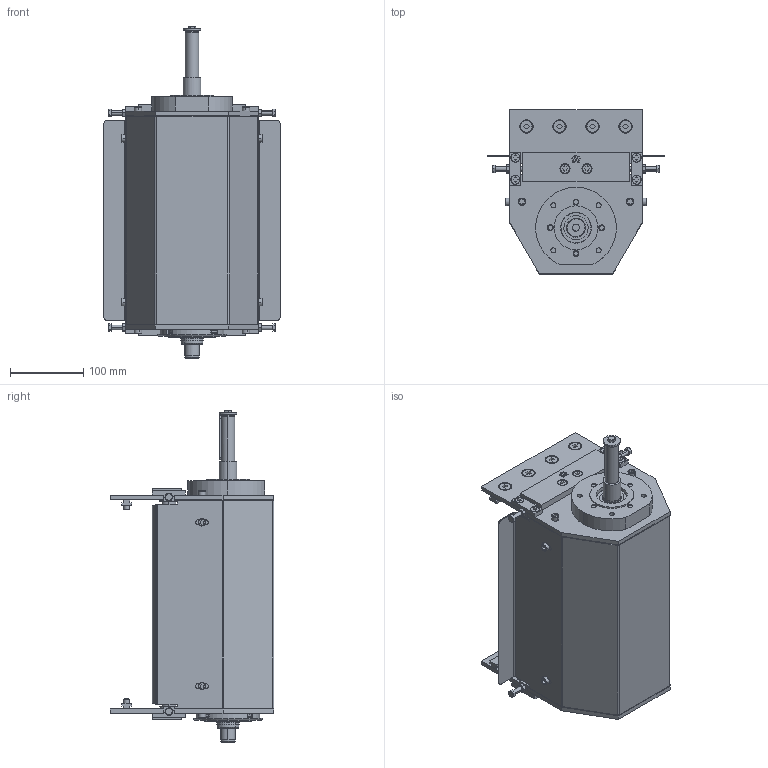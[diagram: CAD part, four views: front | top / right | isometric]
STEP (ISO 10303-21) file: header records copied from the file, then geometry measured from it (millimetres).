
FILE_DESCRIPTION (( 'STEP AP203' ), '1' );
FILE_NAME ('084.095.KCS.44.250.STEP', '2019-07-19T08:22:44', ( 'Localadmin' ), ( 'Microsoft' ), 'SwSTEP 2.0', 'SolidWorks 2018', '' );
FILE_SCHEMA (( 'CONFIG_CONTROL_DESIGN' ));
Length unit declared in the file: millimetre
Products named in the file (35): 084.802.010; 084.817.125; VITI TE UNI 5739_M6x50 UNI 5739; VITI TE UNI 5739_M6x16 UNI 5739; 084.814.002-1; 084.817.126; VITI TSEI UNI 5933_M6x12 UNI 5933; CHIAVETTE_A 6x6x60 UNI 6604-69; 084.802.004; 084.810.003; 084.817.127; VITI TSEI UNI 5933_M8x25 UNI 5933; ANELLI ELASTICI PER ESTERNI UNI 7435-75_8 UNI 7435; 084.802.012_Solo centrale; 084.802.021; 084.817.128_084.816.107<A macchina>; VITI TSEI UNI 5933_M6x16 UNI 5933; CUSCINETTI A SFERE_6004-2RS; 084.812.003; 084.100.003 (30x30)^084.095.KCS.44.250_Default<Lavorato>; VITI TE UNI 5739_M8x10 UNI 5739; VITI TCEI UNI 5931_M6x10 UNI 5931; 084.802.020; 084.802.048; RONDELLE UNI 6592_8.4x17 UNI 6592; 084.302.000 DADI ALUSIC 9x9_084.302.015; 084.802.003-1; 084.802.046; VITI TSEI UNI 5933_M8x20 UNI 5933; VITI TCEI UNI 5931_M6x20 UNI 5931; 084.307.006; 084.802.047; 084.095.KCS.44.250; DADI ESAGONALI NORMALI UNI 5588_M6 UNI 5588; RONDELLE FASCIA LARGA UNI 6593_6.4x24 UNI 6593
Assembly tree (92 placements, depth 2):
  084.095.KCS.44.250
    084.817.125  x2
    084.817.126  x2
    084.817.127
    084.817.128_084.816.107<A macchina>
    084.100.003 (30x30)^084.095.KCS.44.250_Default<Lavorato>  x2
    084.802.048  x4
    084.802.046
    084.802.047
    084.802.010
    084.814.002-1
    084.810.003  x2
    084.802.021
    084.802.004  x4
    084.802.012_Solo centrale  x2
    084.812.003
    084.802.020
    084.802.003-1  x2
    084.307.006  x2
    RONDELLE FASCIA LARGA UNI 6593_6.4x24 UNI 6593
    VITI TE UNI 5739_M6x16 UNI 5739
    CHIAVETTE_A 6x6x60 UNI 6604-69
    ANELLI ELASTICI PER ESTERNI UNI 7435-75_8 UNI 7435  x6
    CUSCINETTI A SFERE_6004-2RS  x4
    VITI TCEI UNI 5931_M6x10 UNI 5931  x4
    084.302.000 DADI ALUSIC 9x9_084.302.015  x4
    VITI TCEI UNI 5931_M6x20 UNI 5931  x4
    DADI ESAGONALI NORMALI UNI 5588_M6 UNI 5588  x4
    VITI TE UNI 5739_M6x50 UNI 5739  x4
    VITI TSEI UNI 5933_M6x12 UNI 5933  x8
    VITI TSEI UNI 5933_M8x25 UNI 5933  x4
    VITI TSEI UNI 5933_M6x16 UNI 5933  x4
    VITI TE UNI 5739_M8x10 UNI 5739  x2
    RONDELLE UNI 6592_8.4x17 UNI 6592  x2
    VITI TSEI UNI 5933_M8x20 UNI 5933  x8
Bounding box: 240 x 223 x 452 mm (x, y, z)
Volume: 2483312.3 mm3; surface area: 1318833.3 mm2
Topology: 94 solids, 94 shells, 2211 faces, 5302 edges, 3383 vertices
Faces by surface type: plane 1052, cylinder 703, cone 354, torus 84, sphere 18
Entity records: 35194 total; most frequent: DIRECTION 5461, CARTESIAN_POINT 5384, ORIENTED_EDGE 4822, EDGE_CURVE 2411, AXIS2_PLACEMENT_3D 2047, VERTEX_POINT 1550, VECTOR 1367, LINE 1367
